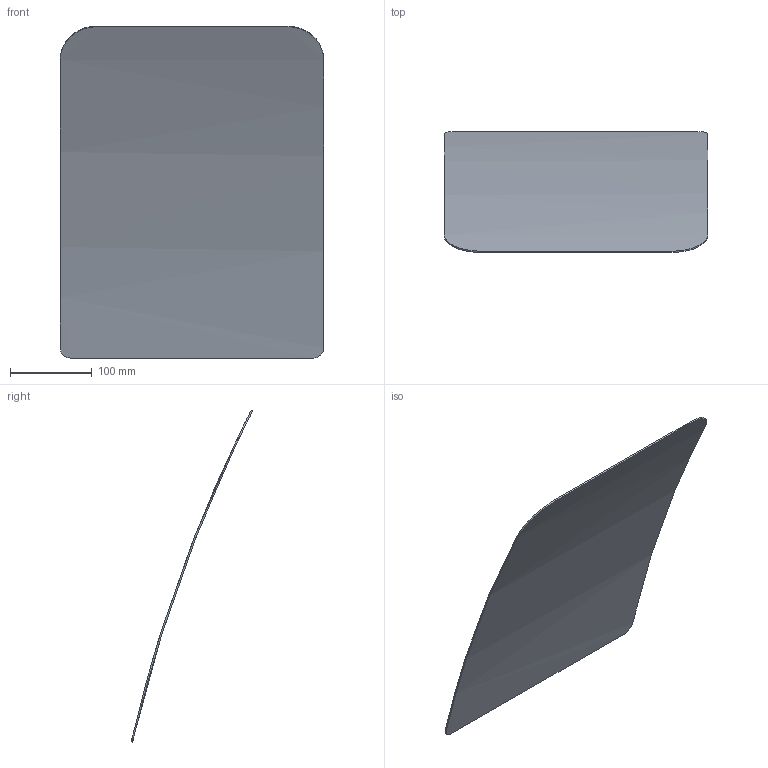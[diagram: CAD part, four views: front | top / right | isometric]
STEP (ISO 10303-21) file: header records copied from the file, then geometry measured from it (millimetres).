
FILE_DESCRIPTION(('Open CASCADE Model'),'2;1');
FILE_NAME('Open CASCADE Shape Model','2026-10-13T16:09:27',('Author'),( 'Open CASCADE'),'Open CASCADE STEP processor 7.8','Open CASCADE 7.8' ,'Unknown');
FILE_SCHEMA(('AUTOMOTIVE_DESIGN { 1 0 10303 214 1 1 1 1 }'));
Length unit declared in the file: millimetre
Products named in the file (1): Open CASCADE STEP translator 7.8 4
Bounding box: 322 x 148.57 x 405.95 mm (x, y, z)
Volume: 248838.6 mm3; surface area: 279114.5 mm2
Topology: 1 solids, 1 shells, 10 faces, 24 edges, 16 vertices
Faces by surface type: bspline 8, cylinder 2
Entity records: 972 total; most frequent: CARTESIAN_POINT 571, ORIENTED_EDGE 48, PCURVE 48, DEFINITIONAL_REPRESENTATION 48, DIRECTION 38, B_SPLINE_CURVE_WITH_KNOTS 36, LINE 32, VECTOR 32
